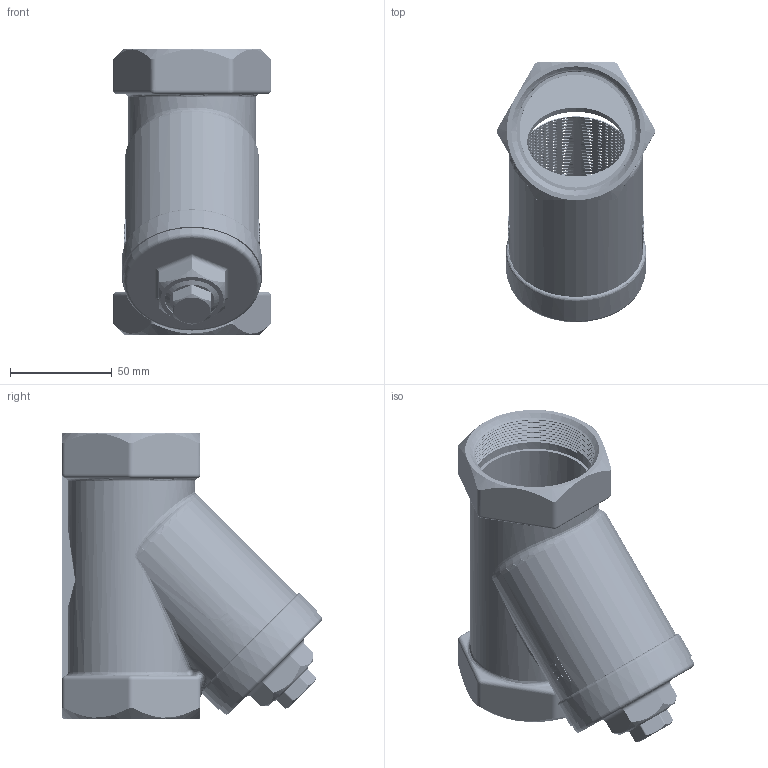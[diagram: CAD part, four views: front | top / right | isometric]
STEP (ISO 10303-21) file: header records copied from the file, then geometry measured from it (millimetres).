
FILE_DESCRIPTION (( 'STEP AP203' ), '1' );
FILE_NAME ('MV-41B(000)-DN50.STEP', '2023-02-11T02:07:37', ( '' ), ( '' ), 'SwSTEP 2.0', 'SolidWorks 2012', '' );
FILE_SCHEMA (( 'CONFIG_CONTROL_DESIGN' ));
Products named in the file (7): MV-41B(000)-DN50; SD; Screen; Cap; Body M; M; Body
Assembly tree (6 placements, depth 2):
  MV-41B(000)-DN50
    Body
    Body M
    Cap
    M
    SD
    Screen
Bounding box: 77.59 x 127.74 x 140 mm (x, y, z)
Volume: 207422.5 mm3; surface area: 131130.3 mm2
Topology: 6 solids, 6 shells, 5063 faces, 14972 edges, 9950 vertices
Faces by surface type: cylinder 4735, bspline 154, plane 112, torus 35, cone 24, sphere 3
Entity records: 299260 total; most frequent: CARTESIAN_POINT 174080, ORIENTED_EDGE 29944, DIRECTION 15293, EDGE_CURVE 14972, VERTEX_POINT 9950, EDGE_LOOP 9664, B_SPLINE_CURVE_WITH_KNOTS 9618, AXIS2_PLACEMENT_3D 5205
